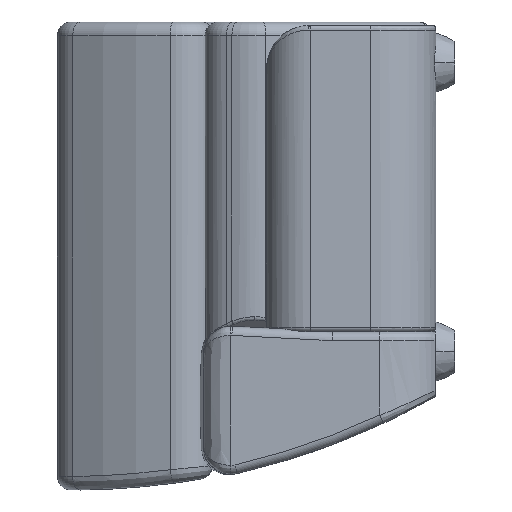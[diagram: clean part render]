
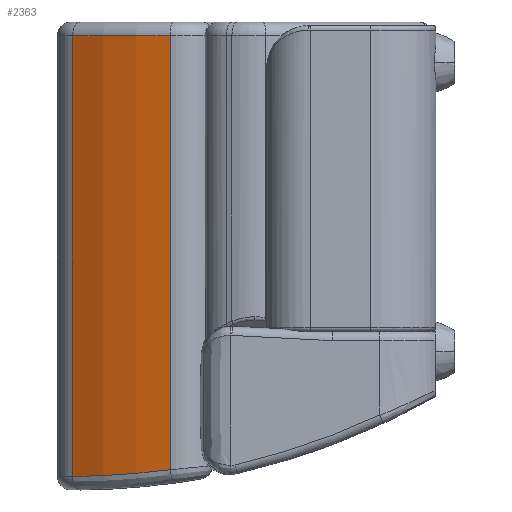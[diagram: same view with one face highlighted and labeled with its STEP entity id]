
A CAD part, left-side view. The second image highlights one B-rep face of the part: STEP entity #2363.
In plain terms, the highlighted cylindrical face has radius 616.682 mm (diameter 1233.36 mm), a partial arc.
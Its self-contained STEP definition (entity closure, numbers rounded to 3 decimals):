
#54=CYLINDRICAL_SURFACE('',#2536,616.682);
#186=LINE('',#11563,#306);
#187=LINE('',#11602,#307);
#306=VECTOR('',#2909,1000.);
#307=VECTOR('',#2914,1000.);
#456=FACE_OUTER_BOUND('',#589,.T.);
#589=EDGE_LOOP('',(#1876,#1877,#1878,#1879));
#682=CIRCLE('',#2537,616.682);
#833=B_SPLINE_CURVE_WITH_KNOTS('',3,(#11603,#11604,#11605,#11606,#11607,
#11608,#11609,#11610,#11611,#11612,#11613,#11614,#11615,#11616),
 .UNSPECIFIED.,.F.,.F.,(4,2,2,2,2,2,4),(0.,0.03,0.045,
0.06,0.12,0.18,0.24),
 .UNSPECIFIED.);
#1017=VERTEX_POINT('',#11561);
#1018=VERTEX_POINT('',#11562);
#1019=VERTEX_POINT('',#11600);
#1020=VERTEX_POINT('',#11601);
#1315=EDGE_CURVE('',#1017,#1018,#186,.T.);
#1318=EDGE_CURVE('',#1019,#1020,#187,.T.);
#1319=EDGE_CURVE('',#1019,#1017,#833,.T.);
#1320=EDGE_CURVE('',#1018,#1020,#682,.T.);
#1876=ORIENTED_EDGE('',*,*,#1318,.F.);
#1877=ORIENTED_EDGE('',*,*,#1319,.T.);
#1878=ORIENTED_EDGE('',*,*,#1315,.T.);
#1879=ORIENTED_EDGE('',*,*,#1320,.T.);
#2363=ADVANCED_FACE('',(#456),#54,.T.);
#2536=AXIS2_PLACEMENT_3D('',#11599,#2912,#2913);
#2537=AXIS2_PLACEMENT_3D('',#11617,#2915,#2916);
#2909=DIRECTION('',(0.,0.,1.));
#2912=DIRECTION('center_axis',(0.,0.,1.));
#2913=DIRECTION('ref_axis',(1.,0.,0.));
#2914=DIRECTION('',(0.,0.,1.));
#2915=DIRECTION('center_axis',(0.,0.,-1.));
#2916=DIRECTION('ref_axis',(1.,0.,0.));
#11561=CARTESIAN_POINT('',(415.109,725.742,-720.74));
#11562=CARTESIAN_POINT('',(415.109,725.742,240.968));
#11563=CARTESIAN_POINT('',(415.109,725.742,-765.776));
#11599=CARTESIAN_POINT('Origin',(1015.951,586.867,-765.776));
#11600=CARTESIAN_POINT('',(511.375,941.409,-735.767));
#11601=CARTESIAN_POINT('',(511.375,941.409,240.968));
#11602=CARTESIAN_POINT('',(511.375,941.409,-765.776));
#11603=CARTESIAN_POINT('Ctrl Pts',(511.375,941.409,-735.767));
#11604=CARTESIAN_POINT('Ctrl Pts',(505.621,933.22,-735.701));
#11605=CARTESIAN_POINT('Ctrl Pts',(500.071,924.898,-735.577));
#11606=CARTESIAN_POINT('Ctrl Pts',(492.052,912.216,-735.295));
#11607=CARTESIAN_POINT('Ctrl Pts',(489.428,907.952,-735.185));
#11608=CARTESIAN_POINT('Ctrl Pts',(484.298,899.384,-734.932));
#11609=CARTESIAN_POINT('Ctrl Pts',(481.79,895.078,-734.789));
#11610=CARTESIAN_POINT('Ctrl Pts',(469.535,873.437,-733.991));
#11611=CARTESIAN_POINT('Ctrl Pts',(460.636,855.774,-733.084));
#11612=CARTESIAN_POINT('Ctrl Pts',(444.602,819.774,-730.667));
#11613=CARTESIAN_POINT('Ctrl Pts',(437.466,801.437,-729.158));
#11614=CARTESIAN_POINT('Ctrl Pts',(424.956,764.094,-725.47));
#11615=CARTESIAN_POINT('Ctrl Pts',(419.581,745.088,-723.292));
#11616=CARTESIAN_POINT('Ctrl Pts',(415.109,725.742,-720.74));
#11617=CARTESIAN_POINT('Origin',(1015.951,586.867,240.968));
